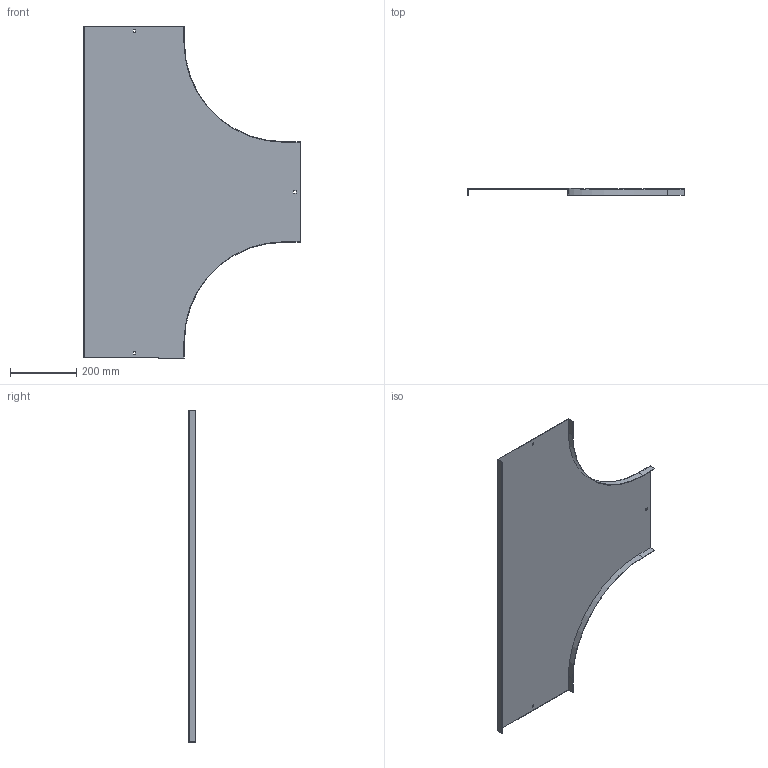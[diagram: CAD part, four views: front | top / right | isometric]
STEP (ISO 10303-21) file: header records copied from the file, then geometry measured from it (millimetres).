
FILE_DESCRIPTION (( 'STEP AP214' ), '1' );
FILE_NAME ('B2_15N3R300.step', '2025-02-21T12:07:03', ( '' ), ( '' ), 'SwSTEP 2.0', 'SolidWorks 2023', '' );
FILE_SCHEMA (( 'AUTOMOTIVE_DESIGN' ));
Length unit declared in the file: millimetre
Products named in the file (1): B2_15N3R300
Bounding box: 651.5 x 20 x 1000 mm (x, y, z)
Volume: 729382.9 mm3; surface area: 977386.7 mm2
Topology: 1 solids, 1 shells, 34 faces, 96 edges, 64 vertices
Faces by surface type: plane 30, cylinder 4
Entity records: 1123 total; most frequent: CARTESIAN_POINT 195, ORIENTED_EDGE 192, DIRECTION 174, EDGE_CURVE 96, LINE 88, VECTOR 88, VERTEX_POINT 64, AXIS2_PLACEMENT_3D 43
